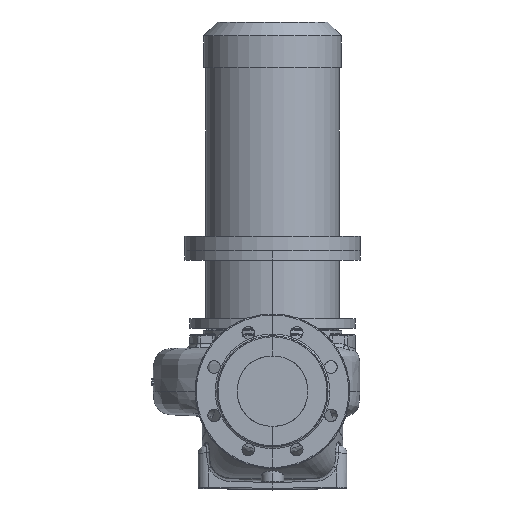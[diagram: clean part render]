
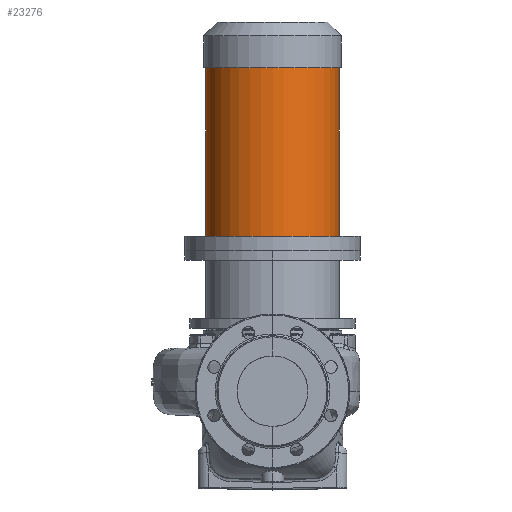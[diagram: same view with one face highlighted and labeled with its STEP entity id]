
A CAD part, top view. The second image highlights one B-rep face of the part: STEP entity #23276.
In plain terms, the highlighted cylindrical face has radius 95 mm (diameter 190 mm), a partial arc.
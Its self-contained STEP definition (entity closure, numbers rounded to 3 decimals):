
#1556 = ORIENTED_EDGE ( 'NONE', *, *, #25332, .F. ) ;
#1593 = CARTESIAN_POINT ( 'NONE',  ( -95., 460.8, 0. ) ) ;
#4264 = CARTESIAN_POINT ( 'NONE',  ( 95., 220.8, 0. ) ) ;
#4655 = AXIS2_PLACEMENT_3D ( 'NONE', #29839, #65132, #30272 ) ;
#8226 = VERTEX_POINT ( 'NONE', #48228 ) ;
#8770 = VERTEX_POINT ( 'NONE', #4264 ) ;
#13196 = DIRECTION ( 'NONE',  ( 0., -1., 0. ) ) ;
#16959 = CARTESIAN_POINT ( 'NONE',  ( 0., 220.8, 0. ) ) ;
#18023 = VERTEX_POINT ( 'NONE', #64035 ) ;
#23276 = ADVANCED_FACE ( 'NONE', ( #46685 ), #60904, .T. ) ;
#25332 = EDGE_CURVE ( 'NONE', #8770, #18023, #65317, .T. ) ;
#25598 = EDGE_CURVE ( 'NONE', #63941, #18023, #56584, .T. ) ;
#26742 = LINE ( 'NONE', #57741, #37881 ) ;
#26876 = CARTESIAN_POINT ( 'NONE',  ( -95., 200.8, 0. ) ) ;
#27603 = DIRECTION ( 'NONE',  ( -1., 0., 0. ) ) ;
#27743 = DIRECTION ( 'NONE',  ( 0., -1., 0. ) ) ;
#29839 = CARTESIAN_POINT ( 'NONE',  ( 0., 460.8, 0. ) ) ;
#30272 = DIRECTION ( 'NONE',  ( -1., 0., 0. ) ) ;
#31696 = ORIENTED_EDGE ( 'NONE', *, *, #25598, .T. ) ;
#31980 = DIRECTION ( 'NONE',  ( 0., -1., 0. ) ) ;
#34211 = DIRECTION ( 'NONE',  ( -1., 0., 0. ) ) ;
#34850 = CIRCLE ( 'NONE', #4655, 95. ) ;
#37881 = VECTOR ( 'NONE', #27743, 1000. ) ;
#39349 = AXIS2_PLACEMENT_3D ( 'NONE', #53616, #13196, #34211 ) ;
#42627 = DIRECTION ( 'NONE',  ( 0., -1., 0. ) ) ;
#44377 = ORIENTED_EDGE ( 'NONE', *, *, #58922, .T. ) ;
#45119 = EDGE_LOOP ( 'NONE', ( #61827, #44377, #31696, #1556 ) ) ;
#46326 = EDGE_CURVE ( 'NONE', #8226, #8770, #26742, .T. ) ;
#46685 = FACE_OUTER_BOUND ( 'NONE', #45119, .T. ) ;
#48228 = CARTESIAN_POINT ( 'NONE',  ( 95., 460.8, 0. ) ) ;
#48711 = AXIS2_PLACEMENT_3D ( 'NONE', #16959, #42627, #27603 ) ;
#53616 = CARTESIAN_POINT ( 'NONE',  ( 0., 200.8, 0. ) ) ;
#56584 = LINE ( 'NONE', #26876, #63733 ) ;
#57741 = CARTESIAN_POINT ( 'NONE',  ( 95., 200.8, 0. ) ) ;
#58922 = EDGE_CURVE ( 'NONE', #8226, #63941, #34850, .T. ) ;
#60904 = CYLINDRICAL_SURFACE ( 'NONE', #39349, 95. ) ;
#61827 = ORIENTED_EDGE ( 'NONE', *, *, #46326, .F. ) ;
#63733 = VECTOR ( 'NONE', #31980, 1000. ) ;
#63941 = VERTEX_POINT ( 'NONE', #1593 ) ;
#64035 = CARTESIAN_POINT ( 'NONE',  ( -95., 220.8, 0. ) ) ;
#65132 = DIRECTION ( 'NONE',  ( 0., -1., 0. ) ) ;
#65317 = CIRCLE ( 'NONE', #48711, 95. ) ;
